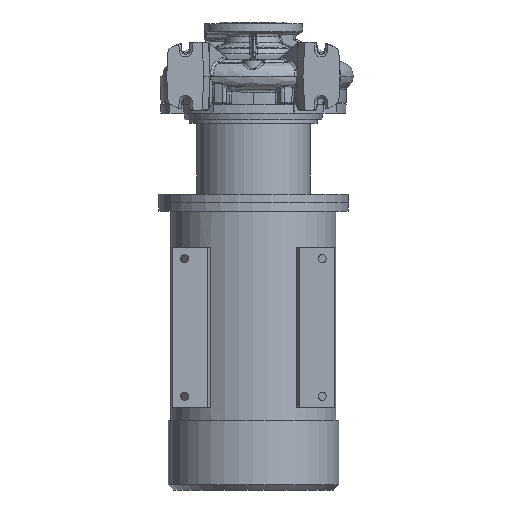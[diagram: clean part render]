
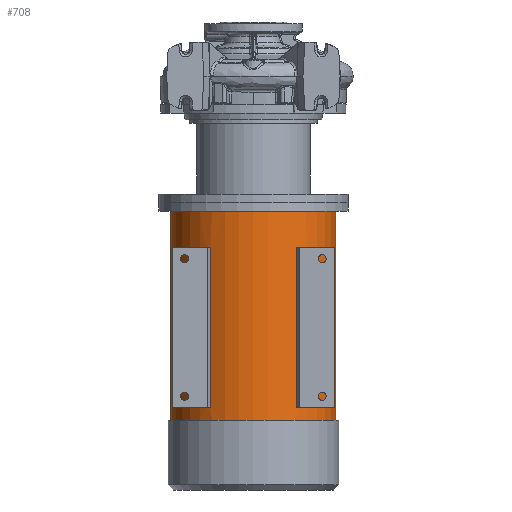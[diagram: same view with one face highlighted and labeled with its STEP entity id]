
A CAD part, front view. The second image highlights one B-rep face of the part: STEP entity #708.
In plain terms, the highlighted cylindrical face has radius 152.5 mm (diameter 305 mm), a partial arc.
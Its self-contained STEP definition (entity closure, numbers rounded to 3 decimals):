
#708 = ADVANCED_FACE ( 'NONE', ( #82159, #63437, #76679 ), #49276, .T. ) ;
#1777 = CARTESIAN_POINT ( 'NONE',  ( -89.37, -123.569, -764. ) ) ;
#1956 = AXIS2_PLACEMENT_3D ( 'NONE', #55960, #20253, #6994 ) ;
#2073 = CARTESIAN_POINT ( 'NONE',  ( -152.5, 0., -249. ) ) ;
#2953 = DIRECTION ( 'NONE',  ( -1., 0., 0. ) ) ;
#3897 = DIRECTION ( 'NONE',  ( -1., 0., 0. ) ) ;
#4326 = CARTESIAN_POINT ( 'NONE',  ( 79.357, -130.226, -764. ) ) ;
#4629 = AXIS2_PLACEMENT_3D ( 'NONE', #25737, #32806, #3897 ) ;
#6374 = LINE ( 'NONE', #30911, #78970 ) ;
#6786 = VERTEX_POINT ( 'NONE', #56498 ) ;
#6928 = CARTESIAN_POINT ( 'NONE',  ( 0., 0., -315.5 ) ) ;
#6994 = DIRECTION ( 'NONE',  ( -1., 0., 0. ) ) ;
#7551 = LINE ( 'NONE', #45201, #89058 ) ;
#9855 = DIRECTION ( 'NONE',  ( 0., 0., 1. ) ) ;
#12466 = VECTOR ( 'NONE', #79566, 1000. ) ;
#12606 = DIRECTION ( 'NONE',  ( -1., 0., 0. ) ) ;
#12753 = LINE ( 'NONE', #4326, #36969 ) ;
#13418 = ORIENTED_EDGE ( 'NONE', *, *, #71209, .T. ) ;
#15567 = CARTESIAN_POINT ( 'NONE',  ( 89.37, -123.569, -612.5 ) ) ;
#16477 = CARTESIAN_POINT ( 'NONE',  ( 0., 0., -249. ) ) ;
#16890 = VERTEX_POINT ( 'NONE', #34616 ) ;
#18326 = CIRCLE ( 'NONE', #50678, 152.5 ) ;
#18766 = DIRECTION ( 'NONE',  ( -1., 0., 0. ) ) ;
#20253 = DIRECTION ( 'NONE',  ( 0., 0., 1. ) ) ;
#22272 = CIRCLE ( 'NONE', #1956, 152.5 ) ;
#23207 = CARTESIAN_POINT ( 'NONE',  ( -79.357, -130.226, -315.5 ) ) ;
#23780 = EDGE_CURVE ( 'NONE', #40056, #25623, #12753, .T. ) ;
#23781 = ORIENTED_EDGE ( 'NONE', *, *, #26951, .F. ) ;
#25623 = VERTEX_POINT ( 'NONE', #34617 ) ;
#25737 = CARTESIAN_POINT ( 'NONE',  ( 0., 0., -764. ) ) ;
#26951 = EDGE_CURVE ( 'NONE', #40056, #72273, #22272, .T. ) ;
#27923 = CIRCLE ( 'NONE', #47883, 152.5 ) ;
#30322 = CARTESIAN_POINT ( 'NONE',  ( 89.37, -123.569, -315.5 ) ) ;
#30889 = VERTEX_POINT ( 'NONE', #65506 ) ;
#30911 = CARTESIAN_POINT ( 'NONE',  ( -152.5, 0., -764. ) ) ;
#31508 = DIRECTION ( 'NONE',  ( 0., 0., -1. ) ) ;
#31622 = CARTESIAN_POINT ( 'NONE',  ( -89.37, -123.569, -315.5 ) ) ;
#32806 = DIRECTION ( 'NONE',  ( 0., 0., -1. ) ) ;
#33426 = VERTEX_POINT ( 'NONE', #61763 ) ;
#34616 = CARTESIAN_POINT ( 'NONE',  ( -89.37, -123.569, -612.5 ) ) ;
#34617 = CARTESIAN_POINT ( 'NONE',  ( 79.357, -130.226, -315.5 ) ) ;
#35144 = CIRCLE ( 'NONE', #70203, 152.5 ) ;
#35290 = DIRECTION ( 'NONE',  ( 0., 0., -1. ) ) ;
#35360 = EDGE_CURVE ( 'NONE', #80349, #47381, #18326, .T. ) ;
#36259 = ORIENTED_EDGE ( 'NONE', *, *, #35360, .F. ) ;
#36539 = CARTESIAN_POINT ( 'NONE',  ( 79.357, -130.226, -612.5 ) ) ;
#36969 = VECTOR ( 'NONE', #9855, 1000. ) ;
#37217 = EDGE_CURVE ( 'NONE', #33426, #73563, #27923, .T. ) ;
#37302 = EDGE_CURVE ( 'NONE', #6786, #16890, #85037, .T. ) ;
#37450 = EDGE_CURVE ( 'NONE', #47381, #16890, #49973, .T. ) ;
#39719 = LINE ( 'NONE', #86914, #81452 ) ;
#40056 = VERTEX_POINT ( 'NONE', #36539 ) ;
#41121 = ORIENTED_EDGE ( 'NONE', *, *, #53169, .T. ) ;
#44902 = DIRECTION ( 'NONE',  ( 0., 0., 1. ) ) ;
#45201 = CARTESIAN_POINT ( 'NONE',  ( 152.5, 0., -764. ) ) ;
#46576 = CARTESIAN_POINT ( 'NONE',  ( 0., 0., -635. ) ) ;
#47381 = VERTEX_POINT ( 'NONE', #31622 ) ;
#47690 = ORIENTED_EDGE ( 'NONE', *, *, #77523, .T. ) ;
#47793 = DIRECTION ( 'NONE',  ( 0., 0., 1. ) ) ;
#47883 = AXIS2_PLACEMENT_3D ( 'NONE', #46576, #60941, #18766 ) ;
#49203 = EDGE_LOOP ( 'NONE', ( #85388, #78154, #87309, #36259 ) ) ;
#49276 = CYLINDRICAL_SURFACE ( 'NONE', #4629, 152.5 ) ;
#49584 = ORIENTED_EDGE ( 'NONE', *, *, #85930, .F. ) ;
#49973 = LINE ( 'NONE', #1777, #12466 ) ;
#50678 = AXIS2_PLACEMENT_3D ( 'NONE', #6928, #35290, #64126 ) ;
#51613 = DIRECTION ( 'NONE',  ( 0., 0., -1. ) ) ;
#53169 = EDGE_CURVE ( 'NONE', #77824, #73563, #6374, .T. ) ;
#55960 = CARTESIAN_POINT ( 'NONE',  ( 0., 0., -612.5 ) ) ;
#56334 = LINE ( 'NONE', #79466, #87067 ) ;
#56498 = CARTESIAN_POINT ( 'NONE',  ( -79.357, -130.226, -612.5 ) ) ;
#57206 = AXIS2_PLACEMENT_3D ( 'NONE', #57798, #78365, #71262 ) ;
#57798 = CARTESIAN_POINT ( 'NONE',  ( 0., 0., -612.5 ) ) ;
#60941 = DIRECTION ( 'NONE',  ( 0., 0., -1. ) ) ;
#61763 = CARTESIAN_POINT ( 'NONE',  ( 152.5, 0., -635. ) ) ;
#63071 = ORIENTED_EDGE ( 'NONE', *, *, #37217, .F. ) ;
#63331 = CIRCLE ( 'NONE', #88701, 152.5 ) ;
#63437 = FACE_BOUND ( 'NONE', #70497, .T. ) ;
#63998 = VERTEX_POINT ( 'NONE', #30322 ) ;
#64126 = DIRECTION ( 'NONE',  ( 1., 0., 0. ) ) ;
#65506 = CARTESIAN_POINT ( 'NONE',  ( 152.5, 0., -249. ) ) ;
#65870 = CARTESIAN_POINT ( 'NONE',  ( -152.5, 0., -635. ) ) ;
#70203 = AXIS2_PLACEMENT_3D ( 'NONE', #89778, #47793, #12606 ) ;
#70497 = EDGE_LOOP ( 'NONE', ( #23781, #79886, #47690, #13418 ) ) ;
#70933 = EDGE_CURVE ( 'NONE', #6786, #80349, #39719, .T. ) ;
#71209 = EDGE_CURVE ( 'NONE', #63998, #72273, #56334, .T. ) ;
#71262 = DIRECTION ( 'NONE',  ( 1., 0., 0. ) ) ;
#71744 = ORIENTED_EDGE ( 'NONE', *, *, #72536, .T. ) ;
#72273 = VERTEX_POINT ( 'NONE', #15567 ) ;
#72536 = EDGE_CURVE ( 'NONE', #30889, #77824, #63331, .T. ) ;
#73563 = VERTEX_POINT ( 'NONE', #65870 ) ;
#76679 = FACE_BOUND ( 'NONE', #49203, .T. ) ;
#77523 = EDGE_CURVE ( 'NONE', #25623, #63998, #35144, .T. ) ;
#77824 = VERTEX_POINT ( 'NONE', #2073 ) ;
#78076 = EDGE_LOOP ( 'NONE', ( #49584, #71744, #41121, #63071 ) ) ;
#78154 = ORIENTED_EDGE ( 'NONE', *, *, #37302, .T. ) ;
#78365 = DIRECTION ( 'NONE',  ( 0., 0., -1. ) ) ;
#78970 = VECTOR ( 'NONE', #31508, 1000. ) ;
#79466 = CARTESIAN_POINT ( 'NONE',  ( 89.37, -123.569, -764. ) ) ;
#79566 = DIRECTION ( 'NONE',  ( 0., 0., -1. ) ) ;
#79886 = ORIENTED_EDGE ( 'NONE', *, *, #23780, .T. ) ;
#80349 = VERTEX_POINT ( 'NONE', #23207 ) ;
#81452 = VECTOR ( 'NONE', #44902, 1000. ) ;
#82159 = FACE_OUTER_BOUND ( 'NONE', #78076, .T. ) ;
#85037 = CIRCLE ( 'NONE', #57206, 152.5 ) ;
#85388 = ORIENTED_EDGE ( 'NONE', *, *, #70933, .F. ) ;
#85930 = EDGE_CURVE ( 'NONE', #30889, #33426, #7551, .T. ) ;
#85965 = DIRECTION ( 'NONE',  ( 0., 0., -1. ) ) ;
#86914 = CARTESIAN_POINT ( 'NONE',  ( -79.357, -130.226, -764. ) ) ;
#87067 = VECTOR ( 'NONE', #51613, 1000. ) ;
#87190 = DIRECTION ( 'NONE',  ( 0., 0., -1. ) ) ;
#87309 = ORIENTED_EDGE ( 'NONE', *, *, #37450, .F. ) ;
#88701 = AXIS2_PLACEMENT_3D ( 'NONE', #16477, #87190, #2953 ) ;
#89058 = VECTOR ( 'NONE', #85965, 1000. ) ;
#89778 = CARTESIAN_POINT ( 'NONE',  ( 0., 0., -315.5 ) ) ;
